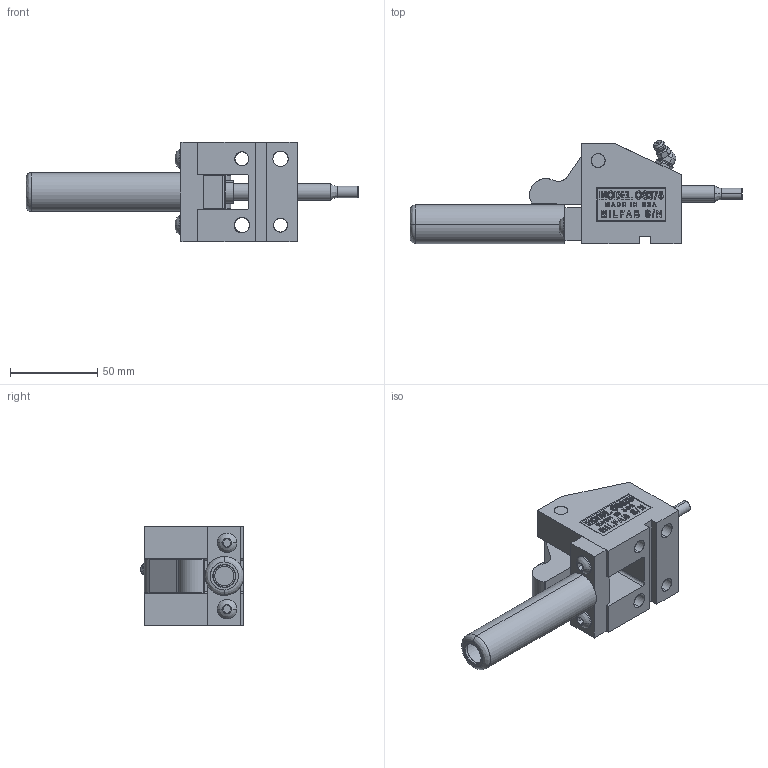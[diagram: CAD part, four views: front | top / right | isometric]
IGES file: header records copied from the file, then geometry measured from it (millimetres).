
Start section: SolidWorks IGES file using analytic representation for surfaces
Global section: file name: Y:\JIM'S INCH CAM UNITS\OS37545\CLOSED\OS37545-C.IGS; native system: SolidWorks 2006 by SolidWorks Corporation; preprocessor: SolidWorks 2006 by SolidWorks Corporation; author: Jim; date: 090205.160809; units: inch
Bounding box: 190.5 x 59.31 x 57.15 mm (x, y, z)
Surface area: 55354.6 mm2 (no closed solid volume)
Topology: 0 solids, 0 shells, 584 faces, 7563 edges, 7561 vertices
Faces by surface type: bspline 466, revolution 118
